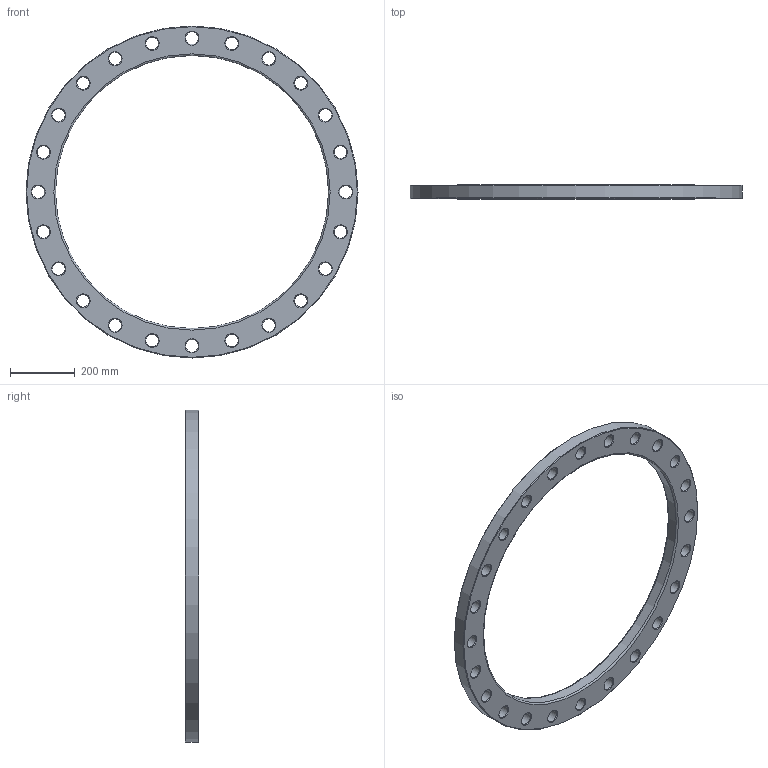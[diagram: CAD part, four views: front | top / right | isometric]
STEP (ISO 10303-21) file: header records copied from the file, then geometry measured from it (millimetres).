
FILE_DESCRIPTION(/* description */ ('Unknown'),/* implementation_level */ '2;1');
FILE_NAME(/* name */ 'FZ800C',/* time_stamp */ '2021-03-15T12:28:57+01:00',/* author */ ('Unknown'),/* organization */ ('Unknown'),/* preprocessor_version */ 'ST-DEVELOPER v16.7',/* originating_system */ 'Solid Edge',/* authorisation */ 'Unknown');
FILE_SCHEMA (('AUTOMOTIVE_DESIGN {1 0 10303 214 3 1 1}'));
Length unit declared in the file: millimetre
Products named in the file (1): FZ800C
Bounding box: 1025 x 42 x 1025 mm (x, y, z)
Volume: 9957026.3 mm3; surface area: 821131.3 mm2
Topology: 1 solids, 1 shells, 80 faces, 254 edges, 176 vertices
Faces by surface type: cone 50, cylinder 26, plane 2, torus 2
Full cylindrical faces by diameter (mm): 39 x24, 843 x1, 1025 x1
Entity records: 1974 total; most frequent: DIRECTION 370, CARTESIAN_POINT 289, ORIENTED_EDGE 208, EDGE_LOOP 208, FACE_BOUND 208, AXIS2_PLACEMENT_3D 185, EDGE_CURVE 104, VERTEX_POINT 104
